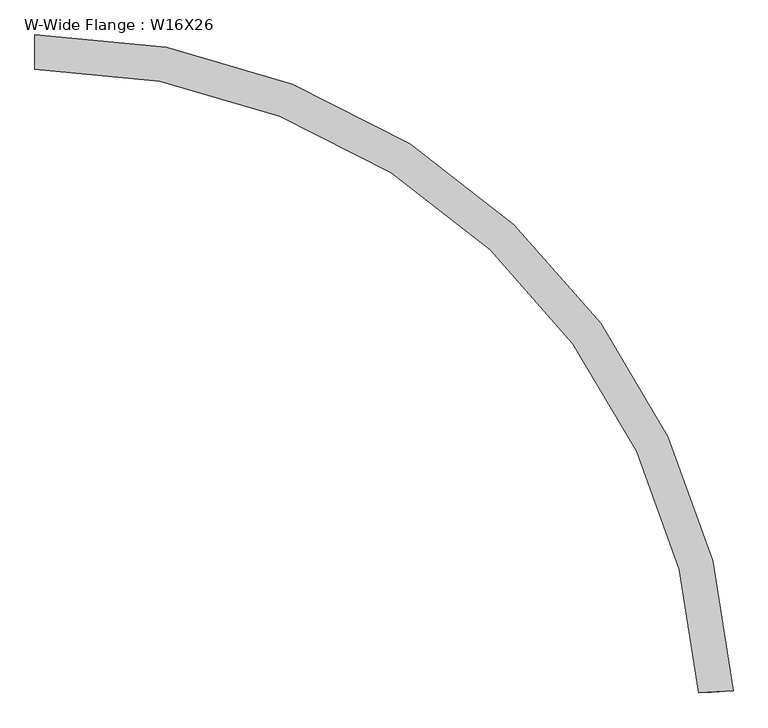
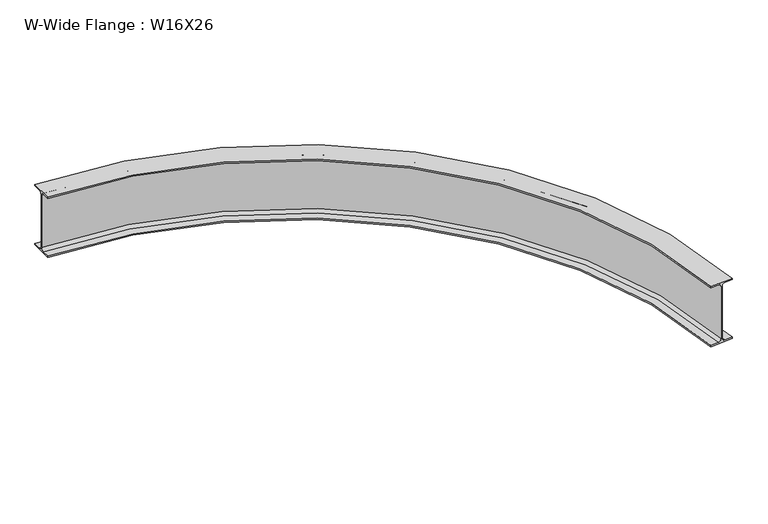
"""IFC4 building model written with IfcOpenShell, lengths in millimetres: beam geometry, W-Wide Flange : W16X26."""

from ifc_helpers import new_model, si_unit, point, frame, origin, place, context, project, spatial, polyline, circle_curve, ellipse_curve, trimmed, source, transform, mapped, element, save
from ifc_brep_helpers import plane_surface, cylinder_surface, revolved_surface, advanced_brep


def w_wide_flange_w16x26_9fbcf036(model_context):
    return source(origin(), model_context, "Body", "AdvancedBrep", [
        advanced_brep(
        [(2687.1196296, -2593.7096303, -190.5496094), (2687.1196296, -2593.7096303, -199.2808594), (2826.5456481, -2584.9646111, -199.2808594), (2826.5456481, -2584.9646111, -190.5496094), (2778.2218576, -2587.9955553, -190.5496094), (2760.001412, -2589.1383703, -172.2933594), (2760.001412, -2589.1383703, 172.2933594), (2778.2218576, -2587.9955553, 190.5496094), (2826.5456481, -2584.9646111, 190.5496094), (2826.5456481, -2584.9646111, 199.2808594), (2687.1196296, -2593.7096303, 199.2808594), (2687.1196296, -2593.7096303, 190.5496094), (2735.4434201, -2590.6786861, 190.5496094), (2753.6638657, -2589.5358711, 172.2933594), (2753.6638657, -2589.5358711, -172.2933594), (2735.4434201, -2590.6786861, -190.5496094), (0.0, -69.85, -190.5496094), (0.0, -21.43125, -190.5496094), (0.0, -3.175, -172.2933594), (0.0, -3.175, 172.2933594), (0.0, -21.43125, 190.5496094), (0.0, -69.85, 190.5496094), (0.0, -69.85, 199.2808594), (0.0, 69.85, 199.2808594), (0.0, 69.85, 190.5496094), (0.0, 21.43125, 190.5496094), (0.0, 3.175, 172.2933594), (0.0, 3.175, -172.2933594), (0.0, 21.43125, -190.5496094), (0.0, 69.85, -190.5496094), (0.0, 69.85, -199.2808594), (0.0, -69.85, -199.2808594)],
        [
            (0, 1),
            (1, 2),
            (2, 3),
            (3, 4),
            (4, 5, circle_curve(frame((2778.2218576, -2587.9955553, -172.2933594), z_axis=(-0.06259856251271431, 0.9980387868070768, 0.0), x_axis=(0.9980387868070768, 0.06259856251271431, 0.0)), 18.25625)),
            (5, 6),
            (6, 7, circle_curve(frame((2778.2218576, -2587.9955553, 172.2933594), z_axis=(-0.06259856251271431, 0.9980387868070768, 0.0), x_axis=(0.9980387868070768, 0.06259856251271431, 0.0)), 18.25625)),
            (7, 8),
            (8, 9),
            (9, 10),
            (10, 11),
            (11, 12),
            (12, 13, circle_curve(frame((2735.4434201, -2590.6786861, 172.2933594), z_axis=(-0.06259856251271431, 0.9980387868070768, 0.0), x_axis=(0.9980387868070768, 0.06259856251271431, 0.0)), 18.25625)),
            (13, 14),
            (14, 15, circle_curve(frame((2735.4434201, -2590.6786861, -172.2933594), z_axis=(-0.06259856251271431, 0.9980387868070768, 0.0), x_axis=(0.9980387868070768, 0.06259856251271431, 0.0)), 18.25625)),
            (15, 0),
            (16, 17),
            (17, 18, circle_curve(frame((0.0, -21.43125, -172.2933594), z_axis=(1.0, 0.0, 0.0), x_axis=(0.0, 1.0, 0.0)), 18.25625)),
            (18, 19),
            (19, 20, circle_curve(frame((0.0, -21.43125, 172.2933594), z_axis=(1.0, 0.0, 0.0), x_axis=(0.0, 1.0, 0.0)), 18.25625)),
            (20, 21),
            (21, 22),
            (22, 23),
            (23, 24),
            (24, 25),
            (25, 26, circle_curve(frame((0.0, 21.43125, 172.2933594), z_axis=(1.0, 0.0, 0.0), x_axis=(0.0, 1.0, 0.0)), 18.25625)),
            (26, 27),
            (27, 28, circle_curve(frame((0.0, 21.43125, -172.2933594), z_axis=(1.0, 0.0, 0.0), x_axis=(0.0, 1.0, 0.0)), 18.25625)),
            (28, 29),
            (29, 30),
            (30, 31),
            (31, 16),
            (15, 17, circle_curve(frame((0.0, -2762.25, -190.5496094), z_axis=(0.0, 0.0, 1.0), x_axis=(-1.0, 0.0, 0.0)), 2740.81875)),
            (16, 0, circle_curve(frame((0.0, -2762.25, -190.5496094), z_axis=(0.0, 0.0, -1.0), x_axis=(-1.0, 0.0, 0.0)), 2692.4)),
            (14, 18, circle_curve(frame((0.0, -2762.25, -172.2933594), z_axis=(0.0, 0.0, 1.0), x_axis=(-1.0, 0.0, 0.0)), 2759.075)),
            (13, 19, circle_curve(frame((0.0, -2762.25, 172.2933594), z_axis=(0.0, 0.0, 1.0), x_axis=(-1.0, 0.0, 0.0)), 2759.075)),
            (12, 20, circle_curve(frame((0.0, -2762.25, 190.5496094), z_axis=(0.0, 0.0, 1.0), x_axis=(-1.0, 0.0, 0.0)), 2740.81875)),
            (11, 21, circle_curve(frame((0.0, -2762.25, 190.5496094), z_axis=(0.0, 0.0, 1.0), x_axis=(-1.0, 0.0, 0.0)), 2692.4)),
            (10, 22, circle_curve(frame((0.0, -2762.25, 199.2808594), z_axis=(0.0, 0.0, 1.0), x_axis=(-1.0, 0.0, 0.0)), 2692.4)),
            (9, 23, circle_curve(frame((0.0, -2762.25, 199.2808594), z_axis=(0.0, 0.0, 1.0), x_axis=(-1.0, 0.0, 0.0)), 2832.1)),
            (8, 24, circle_curve(frame((0.0, -2762.25, 190.5496094), z_axis=(0.0, 0.0, 1.0), x_axis=(-1.0, 0.0, 0.0)), 2832.1)),
            (7, 25, circle_curve(frame((0.0, -2762.25, 190.5496094), z_axis=(0.0, 0.0, 1.0), x_axis=(-1.0, 0.0, 0.0)), 2783.68125)),
            (6, 26, circle_curve(frame((0.0, -2762.25, 172.2933594), z_axis=(0.0, 0.0, 1.0), x_axis=(-1.0, 0.0, 0.0)), 2765.425)),
            (5, 27, circle_curve(frame((0.0, -2762.25, -172.2933594), z_axis=(0.0, 0.0, 1.0), x_axis=(-1.0, 0.0, 0.0)), 2765.425)),
            (4, 28, circle_curve(frame((0.0, -2762.25, -190.5496094), z_axis=(0.0, 0.0, 1.0), x_axis=(-1.0, 0.0, 0.0)), 2783.68125)),
            (3, 29, circle_curve(frame((0.0, -2762.25, -190.5496094), z_axis=(0.0, 0.0, 1.0), x_axis=(-1.0, 0.0, 0.0)), 2832.1)),
            (2, 30, circle_curve(frame((0.0, -2762.25, -199.2808594), z_axis=(0.0, 0.0, 1.0), x_axis=(-1.0, 0.0, 0.0)), 2832.1)),
            (1, 31, circle_curve(frame((0.0, -2762.25, -199.2808594), z_axis=(0.0, 0.0, 1.0), x_axis=(-1.0, 0.0, 0.0)), 2692.4)),
        ],
        [
            plane_surface(frame((2756.8326389, -2589.3371207, 0.0), z_axis=(0.06259856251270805, -0.9980387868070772, 0.0), x_axis=(0.0, 0.0, 1.0))),
            plane_surface(frame((0.0, 0.0, 0.0), z_axis=(-1.0, 0.0, 0.0), x_axis=(0.0, 0.0, 1.0))),
            plane_surface(frame((0.0, -2762.25, -190.5496094), z_axis=(0.0, 0.0, 1.0), x_axis=(-1.0, 0.0, 0.0))),
            revolved_surface(trimmed(ellipse_curve(frame((-2740.81875, -2762.25, -172.2933594), z_axis=(0.0, -1.0, 0.0), x_axis=(-1.0, 0.0, 0.0)), 18.25625, 18.25625), [point((-2759.075, -2762.25, -172.2933594))], [point((-2740.81875, -2762.25, -190.5496094))], True, "CARTESIAN"), (0.0, -2762.25, 0.0), (0.0, 0.0, 1.0)),
            revolved_surface(polyline([(-2759.075, -2762.25, 172.2933594), (-2759.075, -2762.25, -172.2933594)]), (0.0, -2762.25, 0.0), (0.0, 0.0, 1.0)),
            revolved_surface(trimmed(ellipse_curve(frame((-2740.81875, -2762.25, 172.2933594), z_axis=(0.0, -1.0, 0.0), x_axis=(-1.0, 0.0, 0.0)), 18.25625, 18.25625), [point((-2740.81875, -2762.25, 190.5496094))], [point((-2759.075, -2762.25, 172.2933594))], True, "CARTESIAN"), (0.0, -2762.25, 0.0), (0.0, 0.0, 1.0)),
            plane_surface(frame((0.0, -2762.25, 190.5496094), z_axis=(0.0, 0.0, -1.0), x_axis=(-1.0, 0.0, 0.0))),
            revolved_surface(polyline([(-2692.4, -2762.25, 199.2808594), (-2692.4, -2762.25, 190.5496094)]), (0.0, -2762.25, 0.0), (0.0, 0.0, 1.0)),
            plane_surface(frame((0.0, -2762.25, 199.2808594), z_axis=(0.0, 0.0, 1.0), x_axis=(-1.0, 0.0, 0.0))),
            cylinder_surface(frame((0.0, -2762.25, 0.0), z_axis=(0.0, 0.0, 1.0), x_axis=(-1.0, 0.0, 0.0)), 2832.1),
            revolved_surface(trimmed(ellipse_curve(frame((-2783.68125, -2762.25, 172.2933594), z_axis=(0.0, -1.0, 0.0), x_axis=(-1.0, 0.0, 0.0)), 18.25625, 18.25625), [point((-2765.425, -2762.25, 172.2933594))], [point((-2783.68125, -2762.25, 190.5496094))], True, "CARTESIAN"), (0.0, -2762.25, 0.0), (0.0, 0.0, 1.0)),
            cylinder_surface(frame((0.0, -2762.25, 0.0), z_axis=(0.0, 0.0, 1.0), x_axis=(-1.0, 0.0, 0.0)), 2765.425),
            revolved_surface(trimmed(ellipse_curve(frame((-2783.68125, -2762.25, -172.2933594), z_axis=(0.0, -1.0, 0.0), x_axis=(-1.0, 0.0, 0.0)), 18.25625, 18.25625), [point((-2783.68125, -2762.25, -190.5496094))], [point((-2765.425, -2762.25, -172.2933594))], True, "CARTESIAN"), (0.0, -2762.25, 0.0), (0.0, 0.0, 1.0)),
            plane_surface(frame((0.0, -2762.25, -199.2808594), z_axis=(0.0, 0.0, -1.0), x_axis=(-1.0, 0.0, 0.0))),
            revolved_surface(polyline([(-2692.4, -2762.25, -190.5496094), (-2692.4, -2762.25, -199.2808594)]), (0.0, -2762.25, 0.0), (0.0, 0.0, 1.0)),
        ],
        [
            (0, [[1, 2, 3, 4, 5, 6, 7, 8, 9, 10, 11, 12, 13, 14, 15, 16]]),
            (1, [[17, 18, 19, 20, 21, 22, 23, 24, 25, 26, 27, 28, 29, 30, 31, 32]]),
            (2, [[33, -17, 34, -16]]),
            (3, [[35, -18, -33, -15]]),
            (4, [[36, -19, -35, -14]]),
            (5, [[37, -20, -36, -13]]),
            (6, [[38, -21, -37, -12]]),
            (7, [[39, -22, -38, -11]]),
            (8, [[40, -23, -39, -10]]),
            (9, [[41, -24, -40, -9]]),
            (6, [[42, -25, -41, -8]]),
            (10, [[43, -26, -42, -7]]),
            (11, [[44, -27, -43, -6]]),
            (12, [[45, -28, -44, -5]]),
            (2, [[46, -29, -45, -4]]),
            (9, [[47, -30, -46, -3]]),
            (13, [[48, -31, -47, -2]]),
            (14, [[-34, -32, -48, -1]]),
        ],
    ),
    ])


if __name__ == "__main__":
    model = new_model("IFC4")
    model_context = context("Model", 3, world=origin())
    ifc_project = project(units=[si_unit("LENGTHUNIT", "METRE", prefix="MILLI")], contexts=[model_context])
    site = spatial("IfcSite", under=ifc_project)
    building = spatial("IfcBuilding", under=site)
    placement = place(None, origin())
    w_wide_flange_w16x26_shape = w_wide_flange_w16x26_9fbcf036(model_context)
    element("IfcBeam", 1, ObjectType="W-Wide Flange : W16X26", at=placement, inside=building, context=model_context, shape_type="MappedRepresentation", body=[
        mapped(w_wide_flange_w16x26_shape, transform((0.0, 0.0, 0.0), x_axis=(1.0, 0.0, 0.0), y_axis=(0.0, 1.0, 0.0), z_axis=(0.0, 0.0, 1.0))),
    ])
    save(model, "model.ifc")
